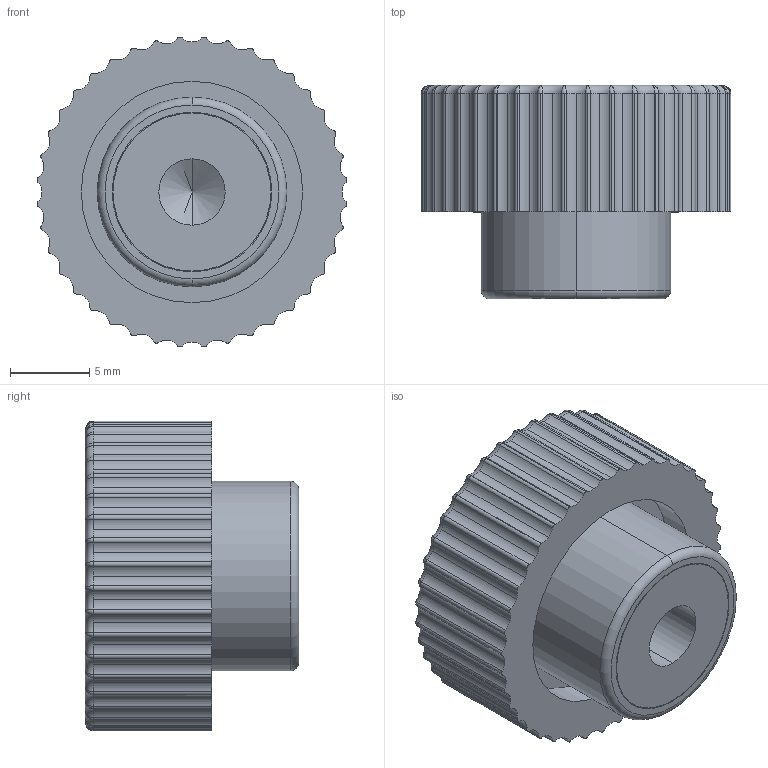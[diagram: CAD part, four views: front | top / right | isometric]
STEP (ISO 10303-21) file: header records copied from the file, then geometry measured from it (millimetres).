
FILE_DESCRIPTION (( 'STEP AP203' ), '1' );
FILE_NAME ('AP-2031-20-M5.STEP', '2015-11-23T10:46:21', ( '' ), ( '' ), 'SwSTEP 2.0', 'SolidWorks 2014', '' );
FILE_SCHEMA (( 'CONFIG_CONTROL_DESIGN' ));
Length unit declared in the file: millimetre
Products named in the file (1): AP-2031-20-M5
Bounding box: 19.61 x 13.5 x 19.61 mm (x, y, z)
Volume: 2304.8 mm3; surface area: 2481.4 mm2
Topology: 2 solids, 2 shells, 253 faces, 644 edges, 359 vertices
Faces by surface type: cylinder 146, torus 55, bspline 40, plane 8, cone 2, sphere 2
Entity records: 8913 total; most frequent: CARTESIAN_POINT 3021, DIRECTION 1320, ORIENTED_EDGE 1204, EDGE_CURVE 602, AXIS2_PLACEMENT_3D 586, CIRCLE 372, VERTEX_POINT 359, EDGE_LOOP 261
